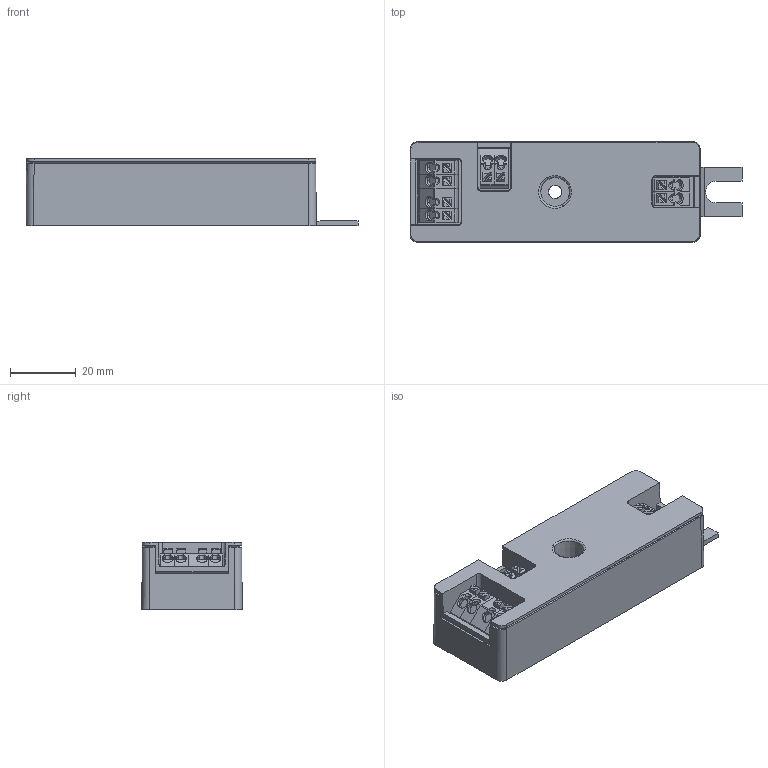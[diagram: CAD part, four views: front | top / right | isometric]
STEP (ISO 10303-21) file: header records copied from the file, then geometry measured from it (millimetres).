
FILE_DESCRIPTION(/* description */ (''),/* implementation_level */ '2;1');
FILE_NAME(/* name */ 'M2-119-0966-20251126.stp',/* time_stamp */ '2025-11-27T17:40:26+08:00',/* author */ (''),/* organization */ (''),/* preprocessor_version */ 'ST-DEVELOPER v16.7',/* originating_system */ 'SIEMENS PLM Software NX 12.0',/* authorisation */ '');
FILE_SCHEMA (('AUTOMOTIVE_DESIGN { 1 0 10303 214 3 1 1 1 }'));
Length unit declared in the file: millimetre
Products named in the file (1): Admi096CE59Aczq8
Bounding box: 101.1 x 30.6 x 20.5 mm (x, y, z)
Volume: 24907.3 mm3; surface area: 32386.3 mm2
Topology: 11 solids, 11 shells, 722 faces, 2005 edges, 1329 vertices
Faces by surface type: plane 538, cylinder 144, cone 32, torus 4, bspline 4
Full cylindrical faces by diameter (mm): 4 x1, 6 x1, 7.5 x1, 9.5 x1, 12.5 x1
Entity records: 23226 total; most frequent: CARTESIAN_POINT 4416, ORIENTED_EDGE 3996, DIRECTION 3731, EDGE_CURVE 1998, LINE 1591, VECTOR 1591, VERTEX_POINT 1327, AXIS2_PLACEMENT_3D 1070
